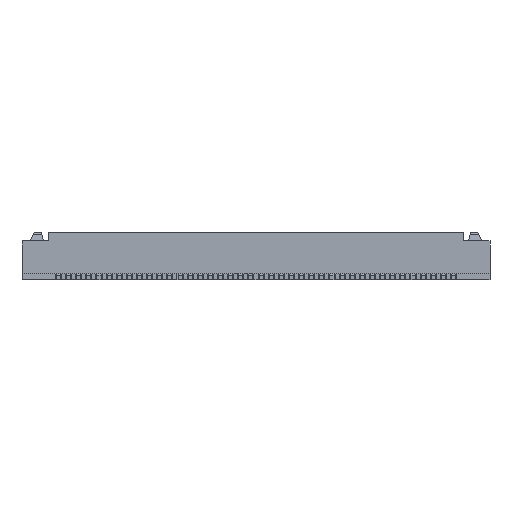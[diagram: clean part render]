
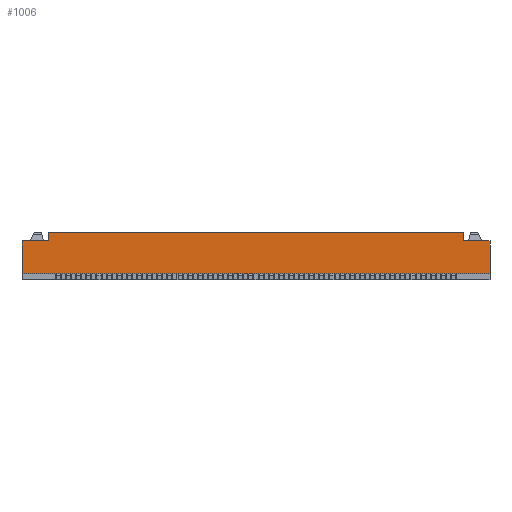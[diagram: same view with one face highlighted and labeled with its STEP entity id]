
A CAD part, front view. The second image highlights one B-rep face of the part: STEP entity #1006.
In plain terms, the highlighted planar face has unit normal (0, -1, 0).
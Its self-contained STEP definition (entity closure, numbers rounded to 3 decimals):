
#399=CARTESIAN_POINT('Vertex',(-10.25,-2.4,1.92)) ;
#402=CARTESIAN_POINT('Line Origine',(-10.25,-2.4,2.135)) ;
#406=CARTESIAN_POINT('Vertex',(-10.25,-2.4,2.35)) ;
#944=CARTESIAN_POINT('Axis2P3D Location',(0.,-2.4,0.3)) ;
#949=CARTESIAN_POINT('Line Origine',(-10.9,-2.4,1.92)) ;
#953=CARTESIAN_POINT('Vertex',(-11.55,-2.4,1.92)) ;
#956=CARTESIAN_POINT('Line Origine',(-11.55,-2.4,1.11)) ;
#960=CARTESIAN_POINT('Vertex',(-11.55,-2.4,0.3)) ;
#963=CARTESIAN_POINT('Line Origine',(0.,-2.4,0.3)) ;
#967=CARTESIAN_POINT('Vertex',(11.55,-2.4,0.3)) ;
#970=CARTESIAN_POINT('Line Origine',(11.55,-2.4,1.11)) ;
#974=CARTESIAN_POINT('Vertex',(11.55,-2.4,1.92)) ;
#977=CARTESIAN_POINT('Line Origine',(10.9,-2.4,1.92)) ;
#981=CARTESIAN_POINT('Vertex',(10.25,-2.4,1.92)) ;
#984=CARTESIAN_POINT('Line Origine',(10.25,-2.4,2.135)) ;
#988=CARTESIAN_POINT('Vertex',(10.25,-2.4,2.35)) ;
#991=CARTESIAN_POINT('Line Origine',(0.,-2.4,2.35)) ;
#403=DIRECTION('Vector Direction',(0.,0.,-1.)) ;
#945=DIRECTION('Axis2P3D Direction',(0.,1.,0.)) ;
#946=DIRECTION('Axis2P3D XDirection',(0.,0.,1.)) ;
#950=DIRECTION('Vector Direction',(1.,0.,0.)) ;
#957=DIRECTION('Vector Direction',(0.,0.,1.)) ;
#964=DIRECTION('Vector Direction',(1.,0.,0.)) ;
#971=DIRECTION('Vector Direction',(0.,0.,1.)) ;
#978=DIRECTION('Vector Direction',(-1.,0.,0.)) ;
#985=DIRECTION('Vector Direction',(0.,0.,-1.)) ;
#992=DIRECTION('Vector Direction',(1.,0.,0.)) ;
#947=AXIS2_PLACEMENT_3D('Plane Axis2P3D',#944,#945,#946) ;
#997=ORIENTED_EDGE('',*,*,#408,.T.) ;
#998=ORIENTED_EDGE('',*,*,#955,.F.) ;
#999=ORIENTED_EDGE('',*,*,#962,.T.) ;
#1000=ORIENTED_EDGE('',*,*,#969,.T.) ;
#1001=ORIENTED_EDGE('',*,*,#976,.F.) ;
#1002=ORIENTED_EDGE('',*,*,#983,.T.) ;
#1003=ORIENTED_EDGE('',*,*,#990,.F.) ;
#1004=ORIENTED_EDGE('',*,*,#995,.F.) ;
#404=VECTOR('Line Direction',#403,1.) ;
#951=VECTOR('Line Direction',#950,1.) ;
#958=VECTOR('Line Direction',#957,1.) ;
#965=VECTOR('Line Direction',#964,1.) ;
#972=VECTOR('Line Direction',#971,1.) ;
#979=VECTOR('Line Direction',#978,1.) ;
#986=VECTOR('Line Direction',#985,1.) ;
#993=VECTOR('Line Direction',#992,1.) ;
#1006=ADVANCED_FACE('\X2\96F64EF651E04F554F53\X0\',(#1005),#948,.F.) ;
#408=EDGE_CURVE('',#407,#400,#405,.T.) ;
#955=EDGE_CURVE('',#954,#400,#952,.T.) ;
#962=EDGE_CURVE('',#954,#961,#959,.F.) ;
#969=EDGE_CURVE('',#961,#968,#966,.T.) ;
#976=EDGE_CURVE('',#975,#968,#973,.F.) ;
#983=EDGE_CURVE('',#975,#982,#980,.T.) ;
#990=EDGE_CURVE('',#989,#982,#987,.T.) ;
#995=EDGE_CURVE('',#407,#989,#994,.T.) ;
#996=EDGE_LOOP('',(#997,#998,#999,#1000,#1001,#1002,#1003,#1004)) ;
#1005=FACE_OUTER_BOUND('',#996,.T.) ;
#405=LINE('Line',#402,#404) ;
#952=LINE('Line',#949,#951) ;
#959=LINE('Line',#956,#958) ;
#966=LINE('Line',#963,#965) ;
#973=LINE('Line',#970,#972) ;
#980=LINE('Line',#977,#979) ;
#987=LINE('Line',#984,#986) ;
#994=LINE('Line',#991,#993) ;
#948=PLANE('Plane',#947) ;
#400=VERTEX_POINT('',#399) ;
#407=VERTEX_POINT('',#406) ;
#954=VERTEX_POINT('',#953) ;
#961=VERTEX_POINT('',#960) ;
#968=VERTEX_POINT('',#967) ;
#975=VERTEX_POINT('',#974) ;
#982=VERTEX_POINT('',#981) ;
#989=VERTEX_POINT('',#988) ;
